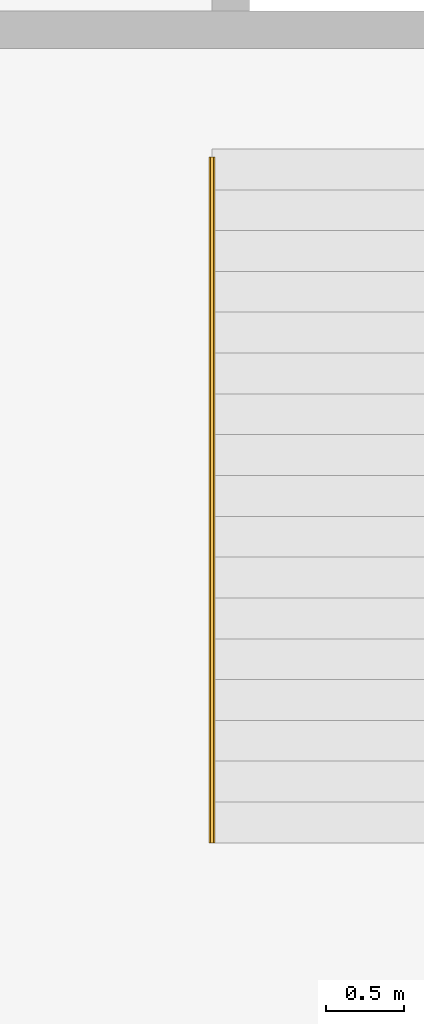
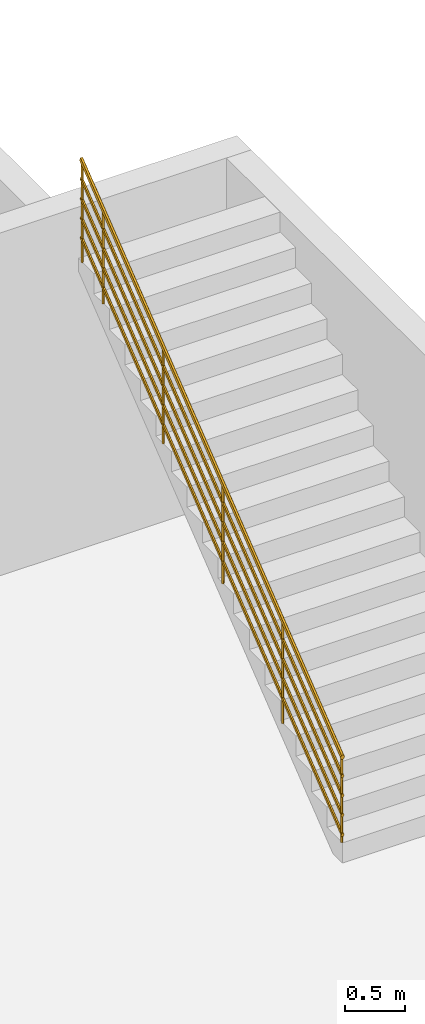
# One storey, part 24 of 24: 1 railing, 1 element without a shape of its own.
"""IFC2X3 building model written with IfcOpenShell, lengths in millimetres."""

from ifc_helpers import new_model, entity, si_unit, converted_unit, derived_unit, direction, frame, origin, place, context, subcontext, project, spatial, faceted_brep, material, element, aggregate, save


model = new_model("IFC2X3")

# Units and contexts
model_context = context("Model", 3, precision=0.01, world=origin(), true_north=direction((6.12303176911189e-17, 1.0)))
body_context = subcontext(model_context, "Body", "Model", "MODEL_VIEW")
ifc_project = project(units=[si_unit("LENGTHUNIT", "METRE", prefix="MILLI"), si_unit("AREAUNIT", "SQUARE_METRE"), si_unit("VOLUMEUNIT", "CUBIC_METRE"), converted_unit("PLANEANGLEUNIT", "DEGREE", entity("IfcRatioMeasure", 0.0174532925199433), si_unit("PLANEANGLEUNIT", "RADIAN"), dimensions=[0, 0, 0, 0, 0, 0, 0]), si_unit("MASSUNIT", "GRAM", prefix="KILO"), derived_unit("MASSDENSITYUNIT", [(si_unit("MASSUNIT", "GRAM", prefix="KILO"), 1), (si_unit("LENGTHUNIT", "METRE"), -3)]), si_unit("TIMEUNIT", "SECOND"), si_unit("FREQUENCYUNIT", "HERTZ"), si_unit("THERMODYNAMICTEMPERATUREUNIT", "DEGREE_CELSIUS"), derived_unit("THERMALTRANSMITTANCEUNIT", [(si_unit("MASSUNIT", "GRAM", prefix="KILO"), 1), (si_unit("THERMODYNAMICTEMPERATUREUNIT", "KELVIN"), -1), (si_unit("TIMEUNIT", "SECOND"), -3)]), derived_unit("VOLUMETRICFLOWRATEUNIT", [(si_unit("LENGTHUNIT", "METRE"), 3), (si_unit("TIMEUNIT", "SECOND"), -1)]), si_unit("ELECTRICCURRENTUNIT", "AMPERE"), si_unit("ELECTRICVOLTAGEUNIT", "VOLT"), si_unit("POWERUNIT", "WATT"), si_unit("FORCEUNIT", "NEWTON", prefix="KILO"), si_unit("ILLUMINANCEUNIT", "LUX"), si_unit("LUMINOUSFLUXUNIT", "LUMEN"), si_unit("LUMINOUSINTENSITYUNIT", "CANDELA"), derived_unit("USERDEFINED", [(si_unit("MASSUNIT", "GRAM", prefix="KILO"), -1), (si_unit("LENGTHUNIT", "METRE"), -2), (si_unit("TIMEUNIT", "SECOND"), 3), (si_unit("LUMINOUSFLUXUNIT", "LUMEN"), 1)]), derived_unit("LINEARVELOCITYUNIT", [(si_unit("LENGTHUNIT", "METRE"), 1), (si_unit("TIMEUNIT", "SECOND"), -1)]), si_unit("PRESSUREUNIT", "PASCAL"), derived_unit("USERDEFINED", [(si_unit("LENGTHUNIT", "METRE"), -2), (si_unit("MASSUNIT", "GRAM", prefix="KILO"), 1), (si_unit("TIMEUNIT", "SECOND"), -2)])], contexts=[model_context])

# Site, building, storey
site_placement = place(None, origin())
site = spatial("IfcSite", under=ifc_project, at=site_placement, Name="表面", CompositionType="ELEMENT")
building_placement = place(site_placement, origin())
building = spatial("IfcBuilding", under=site, at=building_placement, CompositionType="ELEMENT")
storey_placement = place(building_placement, frame((0.0, 0.0, -3500.0)))
storey = spatial("IfcBuildingStorey", under=building, at=storey_placement, Name="-1F", CompositionType="ELEMENT", Elevation=-3500.0)

# Stair, railing
stair_placement = place(storey_placement, origin())
stair = element("IfcStair", 1, at=stair_placement, inside=storey, ShapeType="NOTDEFINED")
ifc_material = material(Name="不锈钢")
railing_placement = place(stair_placement, frame((10628.5548151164, -19489.4334129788, 205.555555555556)))
railing = element("IfcRailing", 2, at=railing_placement, material=ifc_material, Name="栏杆扶手:900mm 圆管", ObjectType="栏杆扶手:900mm 圆管", PredefinedType="NOTDEFINED", context=body_context, shape_type="Brep", body=[
    faceted_brep([(9.09527223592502, 4001.5875, 4011.40225093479), (18.8137605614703, 4013.77409890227, 4021.03695519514), (9.09527223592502, 4001.5875, 3083.33333333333), (21.5952722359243, 4014.0875, 3083.33333333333), (34.0952722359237, 4001.5875, 4011.40225093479), (34.0952722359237, 4001.5875, 3083.33333333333), (24.3767839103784, 3989.40090109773, 4001.76754667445), (21.5952722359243, 3989.0875, 3083.33333333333)], [[[0, 1, 2]], [[3, 2, 1]], [[4, 5, 3]], [[1, 4, 3]], [[6, 5, 4]], [[7, 5, 6]], [[0, 2, 7]], [[6, 0, 7]], [[6, 4, 1, 0]], [[5, 7, 2, 3]]]),
    faceted_brep([(9.09527223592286, 3001.5875, 3220.8039603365), (18.8137605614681, 3013.77409890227, 3230.43866459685), (9.09527223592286, 3001.5875, 2261.11111111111), (21.5952722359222, 3014.0875, 2261.11111111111), (34.0952722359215, 3001.5875, 3220.8039603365), (34.0952722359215, 3001.5875, 2261.11111111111), (24.3767839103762, 2989.40090109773, 3211.16925607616), (21.5952722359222, 2989.0875, 2261.11111111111)], [[[0, 1, 2]], [[3, 2, 1]], [[4, 5, 3]], [[1, 4, 3]], [[6, 5, 4]], [[7, 5, 6]], [[0, 2, 7]], [[6, 0, 7]], [[6, 4, 1, 0]], [[5, 7, 2, 3]]]),
    faceted_brep([(9.09527223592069, 2001.5875, 2430.20566973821), (18.813760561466, 2013.77409890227, 2439.84037399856), (9.09527223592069, 2001.5875, 1438.88888888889), (21.59527223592, 2014.0875, 1438.88888888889), (34.0952722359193, 2001.5875, 2430.20566973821), (34.0952722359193, 2001.5875, 1438.88888888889), (24.3767839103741, 1989.40090109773, 2420.57096547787), (21.59527223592, 1989.0875, 1438.88888888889)], [[[0, 1, 2]], [[3, 2, 1]], [[4, 5, 3]], [[1, 4, 3]], [[6, 5, 4]], [[7, 5, 6]], [[0, 2, 7]], [[6, 0, 7]], [[6, 4, 1, 0]], [[5, 7, 2, 3]]]),
    faceted_brep([(9.09527223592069, 1001.5875, 1639.60737913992), (18.813760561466, 1013.77409890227, 1649.24208340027), (9.09527223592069, 1001.5875, 616.666666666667), (21.59527223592, 1014.0875, 616.666666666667), (34.0952722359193, 1001.5875, 1639.60737913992), (34.0952722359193, 1001.5875, 616.666666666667), (24.3767839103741, 989.400901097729, 1629.97267487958), (21.59527223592, 989.087500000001, 616.666666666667)], [[[0, 1, 2]], [[3, 2, 1]], [[4, 5, 3]], [[1, 4, 3]], [[6, 5, 4]], [[7, 5, 6]], [[0, 2, 7]], [[6, 0, 7]], [[6, 4, 1, 0]], [[5, 7, 2, 3]]]),
    faceted_brep([(9.09527223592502, 4356.90933662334, 4292.31908758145), (18.8137605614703, 4369.09593552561, 4301.9537918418), (9.09527223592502, 4356.90933662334, 3288.88888888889), (21.5952722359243, 4369.40933662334, 3288.88888888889), (34.0952722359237, 4356.90933662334, 4292.31908758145), (34.0952722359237, 4356.90933662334, 3288.88888888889), (24.3767839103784, 4344.72273772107, 4282.68438332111), (21.5952722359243, 4344.40933662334, 3288.88888888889)], [[[0, 1, 2]], [[3, 2, 1]], [[4, 5, 3]], [[1, 4, 3]], [[6, 5, 4]], [[7, 5, 6]], [[0, 2, 7]], [[6, 0, 7]], [[6, 4, 1, 0]], [[5, 7, 2, 3]]]),
    faceted_brep([(9.09527223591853, 14.0875, 858.891567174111), (18.8137605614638, 26.2740989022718, 868.526271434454), (9.09527223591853, 14.0875, 0.0), (21.5952722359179, 26.5874999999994, 0.0), (34.0952722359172, 14.0875, 858.891567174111), (34.0952722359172, 14.0875, 0.0), (24.3767839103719, 1.90090109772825, 849.256862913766), (21.5952722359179, 1.58750000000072, 0.0)], [[[0, 1, 2]], [[3, 2, 1]], [[4, 5, 3]], [[1, 4, 3]], [[6, 5, 4]], [[7, 5, 6]], [[0, 2, 7]], [[6, 0, 7]], [[6, 4, 1, 0]], [[5, 7, 2, 3]]]),
    faceted_brep([(31.5952722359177, 1.58750000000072, 852.424831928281), (34.0952722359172, 1.58750000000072, 857.944760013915), (36.5952722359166, 1.58750000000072, 863.464688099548), (39.0952722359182, 1.58749999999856, 868.984616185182), (41.5952722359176, 1.58750000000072, 874.504544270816), (38.6122822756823, 1.58750000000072, 881.09090029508), (35.6292923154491, 1.58750000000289, 887.677256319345), (33.6122822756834, 1.58750000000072, 892.130756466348), (31.5952722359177, 1.58750000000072, 896.584256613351), (26.5952722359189, 1.58750000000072, 896.584256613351), (21.5952722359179, 1.58750000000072, 896.584256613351), (16.5952722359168, 1.58750000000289, 896.584256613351), (11.595272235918, 1.58750000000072, 896.584256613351), (9.09527223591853, 1.58750000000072, 891.064328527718), (6.59527223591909, 1.58750000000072, 885.544400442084), (4.57826219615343, 1.58750000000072, 881.09090029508), (1.59527223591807, 1.58750000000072, 874.504544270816), (4.57826219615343, 1.58750000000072, 867.918188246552), (6.59527223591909, 1.58750000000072, 863.464688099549), (9.09527223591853, 1.58750000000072, 857.944760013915), (11.595272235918, 1.58750000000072, 852.424831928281), (16.5952722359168, 1.58750000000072, 852.424831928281), (21.5952722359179, 1.58750000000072, 852.424831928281), (26.5952722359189, 1.58750000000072, 852.424831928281), (9.57826219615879, 4369.40933662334, 4310.07080974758), (7.5612521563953, 4369.40933662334, 4314.52430989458), (4.57826219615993, 4369.40933662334, 4321.11066591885), (1.59527223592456, 4369.40933662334, 4327.69702194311), (4.09527223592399, 4369.40933662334, 4333.21695002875), (6.59527223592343, 4369.40933662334, 4338.73687811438), (9.09527223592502, 4369.40933662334, 4344.25680620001), (11.5952722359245, 4369.40933662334, 4349.77673428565), (16.5952722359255, 4369.40933662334, 4349.77673428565), (21.5952722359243, 4369.40933662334, 4349.77673428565), (26.5952722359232, 4369.40933662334, 4349.77673428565), (31.5952722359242, 4369.40933662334, 4349.77673428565), (34.0952722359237, 4369.40933662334, 4344.25680620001), (36.5952722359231, 4369.40933662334, 4338.73687811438), (38.6122822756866, 4369.40933662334, 4334.28337796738), (41.5952722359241, 4369.40933662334, 4327.69702194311), (38.6122822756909, 4369.40933662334, 4321.11066591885), (36.5952722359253, 4369.40933662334, 4316.65716577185), (34.0952722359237, 4369.40933662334, 4311.13723768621), (31.5952722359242, 4369.40933662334, 4305.61730960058), (26.5952722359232, 4369.40933662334, 4305.61730960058), (21.5952722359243, 4369.40933662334, 4305.61730960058), (16.5952722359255, 4369.40933662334, 4305.61730960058), (11.5952722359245, 4369.40933662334, 4305.61730960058)], [[[0, 1, 2, 3, 4, 5, 6, 7, 8, 9, 10, 11, 12, 13, 14, 15, 16, 17, 18, 19, 20, 21, 22, 23]], [[24, 25, 26, 27, 28, 29, 30, 31, 32, 33, 34, 35, 36, 37, 38, 39, 40, 41, 42, 43, 44, 45, 46, 47]], [[32, 31, 12, 11, 10, 9, 8, 35, 34, 33]], [[14, 13, 12, 31, 30, 29, 28, 27, 16, 15]], [[37, 36, 35, 8, 7, 6, 5, 4, 39, 38]], [[20, 19, 18, 17, 16, 27, 26, 25, 24, 47]], [[44, 43, 0, 23, 22, 21, 20, 47, 46, 45]], [[39, 4, 3, 2, 1, 0, 43, 42, 41, 40]]]),
    faceted_brep([(29.0952722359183, 1.58750000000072, 664.318623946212), (30.9702722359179, 1.58750000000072, 668.458570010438), (32.8452722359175, 1.58750000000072, 672.598516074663), (34.7202722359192, 1.58750000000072, 676.738462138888), (36.5952722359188, 1.58750000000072, 680.878408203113), (34.5290626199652, 1.58750000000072, 685.440539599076), (32.4628530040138, 1.58750000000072, 690.002670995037), (30.779062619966, 1.58750000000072, 693.720431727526), (29.0952722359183, 1.58750000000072, 697.438192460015), (25.3452722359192, 1.58750000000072, 697.438192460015), (21.5952722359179, 1.58750000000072, 697.438192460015), (17.8452722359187, 1.58750000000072, 697.438192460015), (14.0952722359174, 1.58750000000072, 697.438192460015), (12.2202722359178, 1.58750000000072, 693.29824639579), (10.3452722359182, 1.58750000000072, 689.158300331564), (8.66148185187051, 1.58750000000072, 685.440539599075), (6.59527223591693, 1.58750000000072, 680.878408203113), (8.66148185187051, 1.58750000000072, 676.316276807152), (10.3452722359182, 1.58750000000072, 672.598516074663), (12.2202722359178, 1.58750000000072, 668.458570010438), (14.0952722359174, 1.58750000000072, 664.318623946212), (17.8452722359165, 1.58750000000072, 664.318623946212), (21.5952722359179, 1.58750000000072, 664.318623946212), (25.3452722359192, 1.58750000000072, 664.318623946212), (12.4114818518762, 4369.40933662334, 4121.228862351), (10.7276914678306, 4369.40933662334, 4124.94662308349), (8.661481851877, 4369.40933662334, 4129.50875447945), (6.59527223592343, 4369.40933662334, 4134.07088587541), (8.470272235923, 4369.40933662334, 4138.21083193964), (10.3452722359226, 4369.40933662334, 4142.35077800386), (12.2202722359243, 4369.40933662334, 4146.49072406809), (14.0952722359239, 4369.40933662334, 4150.63067013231), (17.8452722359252, 4369.40933662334, 4150.63067013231), (21.5952722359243, 4369.40933662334, 4150.63067013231), (25.3452722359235, 4369.40933662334, 4150.63067013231), (29.0952722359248, 4369.40933662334, 4150.63067013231), (30.9702722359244, 4369.40933662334, 4146.49072406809), (32.8452722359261, 4369.40933662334, 4142.35077800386), (34.5290626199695, 4369.40933662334, 4138.63301727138), (36.5952722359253, 4369.40933662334, 4134.07088587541), (34.5290626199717, 4369.40933662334, 4129.50875447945), (32.8452722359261, 4369.40933662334, 4125.79099374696), (30.9702722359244, 4369.40933662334, 4121.65104768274), (29.0952722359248, 4369.40933662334, 4117.51110161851), (25.3452722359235, 4369.40933662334, 4117.51110161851), (21.5952722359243, 4369.40933662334, 4117.51110161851), (17.845272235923, 4369.40933662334, 4117.51110161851), (14.0952722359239, 4369.40933662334, 4117.51110161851)], [[[0, 1, 2, 3, 4, 5, 6, 7, 8, 9, 10, 11, 12, 13, 14, 15, 16, 17, 18, 19, 20, 21, 22, 23]], [[24, 25, 26, 27, 28, 29, 30, 31, 32, 33, 34, 35, 36, 37, 38, 39, 40, 41, 42, 43, 44, 45, 46, 47]], [[32, 31, 12, 11, 10, 9, 8, 35, 34, 33]], [[14, 13, 12, 31, 30, 29, 28, 27, 16, 15]], [[37, 36, 35, 8, 7, 6, 5, 4, 39, 38]], [[20, 19, 18, 17, 16, 27, 26, 25, 24, 47]], [[44, 43, 0, 23, 22, 21, 20, 47, 46, 45]], [[39, 4, 3, 2, 1, 0, 43, 42, 41, 40]]]),
    faceted_brep([(29.0952722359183, 1.58750000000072, 464.318623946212), (30.9702722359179, 1.58750000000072, 468.458570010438), (32.8452722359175, 1.58750000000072, 472.598516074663), (34.7202722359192, 1.58750000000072, 476.738462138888), (36.5952722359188, 1.58750000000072, 480.878408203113), (34.5290626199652, 1.58750000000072, 485.440539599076), (32.4628530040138, 1.58750000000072, 490.002670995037), (30.779062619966, 1.58750000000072, 493.720431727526), (29.0952722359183, 1.58750000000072, 497.438192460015), (25.3452722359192, 1.58750000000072, 497.438192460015), (21.5952722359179, 1.58750000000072, 497.438192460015), (17.8452722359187, 1.58750000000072, 497.438192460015), (14.0952722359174, 1.58750000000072, 497.438192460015), (12.2202722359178, 1.58750000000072, 493.29824639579), (10.3452722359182, 1.58750000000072, 489.158300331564), (8.66148185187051, 1.58750000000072, 485.440539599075), (6.59527223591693, 1.58750000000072, 480.878408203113), (8.66148185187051, 1.58750000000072, 476.316276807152), (10.3452722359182, 1.58750000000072, 472.598516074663), (12.2202722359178, 1.58750000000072, 468.458570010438), (14.0952722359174, 1.58750000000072, 464.318623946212), (17.8452722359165, 1.58750000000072, 464.318623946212), (21.5952722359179, 1.58750000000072, 464.318623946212), (25.3452722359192, 1.58750000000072, 464.318623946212), (12.4114818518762, 4369.40933662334, 3921.228862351), (10.7276914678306, 4369.40933662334, 3924.94662308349), (8.661481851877, 4369.40933662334, 3929.50875447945), (6.59527223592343, 4369.40933662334, 3934.07088587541), (8.470272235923, 4369.40933662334, 3938.21083193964), (10.3452722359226, 4369.40933662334, 3942.35077800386), (12.2202722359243, 4369.40933662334, 3946.49072406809), (14.0952722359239, 4369.40933662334, 3950.63067013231), (17.8452722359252, 4369.40933662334, 3950.63067013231), (21.5952722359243, 4369.40933662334, 3950.63067013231), (25.3452722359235, 4369.40933662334, 3950.63067013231), (29.0952722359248, 4369.40933662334, 3950.63067013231), (30.9702722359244, 4369.40933662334, 3946.49072406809), (32.8452722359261, 4369.40933662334, 3942.35077800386), (34.5290626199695, 4369.40933662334, 3938.63301727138), (36.5952722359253, 4369.40933662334, 3934.07088587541), (34.5290626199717, 4369.40933662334, 3929.50875447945), (32.8452722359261, 4369.40933662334, 3925.79099374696), (30.9702722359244, 4369.40933662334, 3921.65104768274), (29.0952722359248, 4369.40933662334, 3917.51110161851), (25.3452722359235, 4369.40933662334, 3917.51110161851), (21.5952722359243, 4369.40933662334, 3917.51110161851), (17.845272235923, 4369.40933662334, 3917.51110161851), (14.0952722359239, 4369.40933662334, 3917.51110161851)], [[[0, 1, 2, 3, 4, 5, 6, 7, 8, 9, 10, 11, 12, 13, 14, 15, 16, 17, 18, 19, 20, 21, 22, 23]], [[24, 25, 26, 27, 28, 29, 30, 31, 32, 33, 34, 35, 36, 37, 38, 39, 40, 41, 42, 43, 44, 45, 46, 47]], [[32, 31, 12, 11, 10, 9, 8, 35, 34, 33]], [[14, 13, 12, 31, 30, 29, 28, 27, 16, 15]], [[37, 36, 35, 8, 7, 6, 5, 4, 39, 38]], [[20, 19, 18, 17, 16, 27, 26, 25, 24, 47]], [[44, 43, 0, 23, 22, 21, 20, 47, 46, 45]], [[39, 4, 3, 2, 1, 0, 43, 42, 41, 40]]]),
    faceted_brep([(29.0952722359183, 1.58750000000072, 264.318623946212), (30.9702722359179, 1.58750000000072, 268.458570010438), (32.8452722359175, 1.58750000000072, 272.598516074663), (34.7202722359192, 1.58750000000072, 276.738462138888), (36.5952722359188, 1.58750000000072, 280.878408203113), (34.5290626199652, 1.58750000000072, 285.440539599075), (32.4628530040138, 1.58750000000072, 290.002670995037), (30.779062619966, 1.58750000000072, 293.720431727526), (29.0952722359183, 1.58750000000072, 297.438192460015), (25.3452722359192, 1.58750000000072, 297.438192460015), (21.5952722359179, 1.58750000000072, 297.438192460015), (17.8452722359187, 1.58750000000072, 297.438192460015), (14.0952722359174, 1.58750000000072, 297.438192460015), (12.2202722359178, 1.58750000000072, 293.29824639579), (10.3452722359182, 1.58750000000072, 289.158300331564), (8.66148185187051, 1.58750000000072, 285.440539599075), (6.59527223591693, 1.58750000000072, 280.878408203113), (8.66148185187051, 1.58750000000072, 276.316276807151), (10.3452722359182, 1.58750000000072, 272.598516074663), (12.2202722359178, 1.58750000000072, 268.458570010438), (14.0952722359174, 1.58750000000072, 264.318623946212), (17.8452722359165, 1.58750000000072, 264.318623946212), (21.5952722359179, 1.58750000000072, 264.318623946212), (25.3452722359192, 1.58750000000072, 264.318623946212), (12.4114818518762, 4369.40933662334, 3721.228862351), (10.7276914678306, 4369.40933662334, 3724.94662308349), (8.661481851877, 4369.40933662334, 3729.50875447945), (6.59527223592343, 4369.40933662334, 3734.07088587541), (8.470272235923, 4369.40933662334, 3738.21083193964), (10.3452722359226, 4369.40933662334, 3742.35077800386), (12.2202722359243, 4369.40933662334, 3746.49072406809), (14.0952722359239, 4369.40933662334, 3750.63067013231), (17.8452722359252, 4369.40933662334, 3750.63067013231), (21.5952722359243, 4369.40933662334, 3750.63067013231), (25.3452722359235, 4369.40933662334, 3750.63067013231), (29.0952722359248, 4369.40933662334, 3750.63067013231), (30.9702722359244, 4369.40933662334, 3746.49072406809), (32.8452722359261, 4369.40933662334, 3742.35077800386), (34.5290626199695, 4369.40933662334, 3738.63301727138), (36.5952722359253, 4369.40933662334, 3734.07088587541), (34.5290626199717, 4369.40933662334, 3729.50875447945), (32.8452722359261, 4369.40933662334, 3725.79099374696), (30.9702722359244, 4369.40933662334, 3721.65104768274), (29.0952722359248, 4369.40933662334, 3717.51110161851), (25.3452722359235, 4369.40933662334, 3717.51110161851), (21.5952722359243, 4369.40933662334, 3717.51110161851), (17.845272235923, 4369.40933662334, 3717.51110161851), (14.0952722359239, 4369.40933662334, 3717.51110161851)], [[[0, 1, 2, 3, 4, 5, 6, 7, 8, 9, 10, 11, 12, 13, 14, 15, 16, 17, 18, 19, 20, 21, 22, 23]], [[24, 25, 26, 27, 28, 29, 30, 31, 32, 33, 34, 35, 36, 37, 38, 39, 40, 41, 42, 43, 44, 45, 46, 47]], [[32, 31, 12, 11, 10, 9, 8, 35, 34, 33]], [[14, 13, 12, 31, 30, 29, 28, 27, 16, 15]], [[37, 36, 35, 8, 7, 6, 5, 4, 39, 38]], [[20, 19, 18, 17, 16, 27, 26, 25, 24, 47]], [[44, 43, 0, 23, 22, 21, 20, 47, 46, 45]], [[39, 4, 3, 2, 1, 0, 43, 42, 41, 40]]]),
    faceted_brep([(29.0952722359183, 1.58750000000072, 64.3186239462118), (30.9702722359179, 1.58750000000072, 68.4585700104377), (32.8452722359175, 1.58750000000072, 72.5985160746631), (34.7202722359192, 1.58750000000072, 76.738462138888), (36.5952722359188, 1.58750000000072, 80.8784082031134), (34.5290626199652, 1.58750000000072, 85.4405395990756), (32.4628530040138, 1.58750000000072, 90.0026709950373), (30.779062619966, 1.58750000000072, 93.7204317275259), (29.0952722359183, 1.58750000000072, 97.438192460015), (25.3452722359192, 1.58750000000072, 97.4381924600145), (21.5952722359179, 1.58750000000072, 97.4381924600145), (17.8452722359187, 1.58750000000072, 97.4381924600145), (14.0952722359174, 1.58750000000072, 97.438192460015), (12.2202722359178, 1.58750000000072, 93.2982463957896), (10.3452722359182, 1.58750000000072, 89.1583003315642), (8.66148185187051, 1.58750000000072, 85.4405395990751), (6.59527223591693, 1.58750000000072, 80.8784082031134), (8.66148185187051, 1.58750000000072, 76.3162768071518), (10.3452722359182, 1.58750000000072, 72.5985160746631), (12.2202722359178, 1.58750000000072, 68.4585700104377), (14.0952722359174, 1.58750000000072, 64.3186239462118), (17.8452722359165, 1.58750000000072, 64.3186239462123), (21.5952722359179, 1.58750000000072, 64.3186239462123), (25.3452722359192, 1.58750000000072, 64.3186239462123), (12.4114818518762, 4369.40933662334, 3521.228862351), (10.7276914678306, 4369.40933662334, 3524.94662308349), (8.661481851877, 4369.40933662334, 3529.50875447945), (6.59527223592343, 4369.40933662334, 3534.07088587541), (8.470272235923, 4369.40933662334, 3538.21083193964), (10.3452722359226, 4369.40933662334, 3542.35077800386), (12.2202722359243, 4369.40933662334, 3546.49072406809), (14.0952722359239, 4369.40933662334, 3550.63067013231), (17.8452722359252, 4369.40933662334, 3550.63067013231), (21.5952722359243, 4369.40933662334, 3550.63067013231), (25.3452722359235, 4369.40933662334, 3550.63067013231), (29.0952722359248, 4369.40933662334, 3550.63067013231), (30.9702722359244, 4369.40933662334, 3546.49072406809), (32.8452722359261, 4369.40933662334, 3542.35077800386), (34.5290626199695, 4369.40933662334, 3538.63301727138), (36.5952722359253, 4369.40933662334, 3534.07088587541), (34.5290626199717, 4369.40933662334, 3529.50875447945), (32.8452722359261, 4369.40933662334, 3525.79099374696), (30.9702722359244, 4369.40933662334, 3521.65104768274), (29.0952722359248, 4369.40933662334, 3517.51110161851), (25.3452722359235, 4369.40933662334, 3517.51110161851), (21.5952722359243, 4369.40933662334, 3517.51110161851), (17.845272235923, 4369.40933662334, 3517.51110161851), (14.0952722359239, 4369.40933662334, 3517.51110161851)], [[[0, 1, 2, 3, 4, 5, 6, 7, 8, 9, 10, 11, 12, 13, 14, 15, 16, 17, 18, 19, 20, 21, 22, 23]], [[24, 25, 26, 27, 28, 29, 30, 31, 32, 33, 34, 35, 36, 37, 38, 39, 40, 41, 42, 43, 44, 45, 46, 47]], [[32, 31, 12, 11, 10, 9, 8, 35, 34, 33]], [[14, 13, 12, 31, 30, 29, 28, 27, 16, 15]], [[37, 36, 35, 8, 7, 6, 5, 4, 39, 38]], [[20, 19, 18, 17, 16, 27, 26, 25, 24, 47]], [[44, 43, 0, 23, 22, 21, 20, 47, 46, 45]], [[39, 4, 3, 2, 1, 0, 43, 42, 41, 40]]]),
])
aggregate(stair, [railing])

save(model, "model.ifc")
